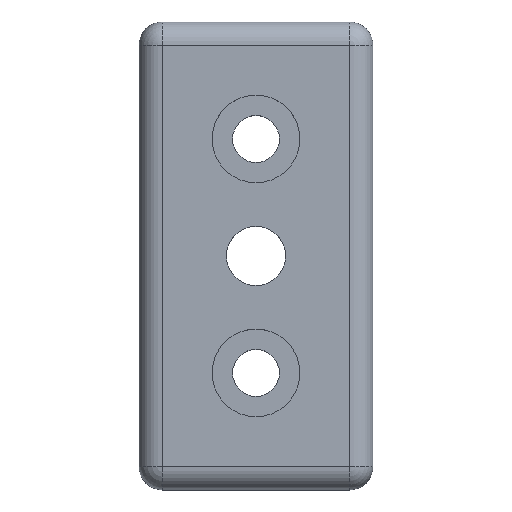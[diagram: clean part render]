
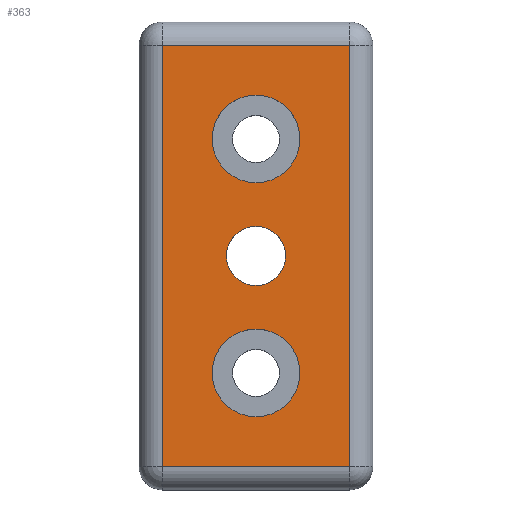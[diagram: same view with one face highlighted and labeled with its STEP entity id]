
A CAD part, top view. The second image highlights one B-rep face of the part: STEP entity #363.
In plain terms, the highlighted planar face has unit normal (0, 0, 1).
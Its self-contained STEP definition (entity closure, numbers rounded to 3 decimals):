
#32=CIRCLE('',#410,5.053);
#33=CIRCLE('',#411,7.5);
#34=CIRCLE('',#412,7.5);
#95=ORIENTED_EDGE('',*,*,#179,.T.);
#96=ORIENTED_EDGE('',*,*,#180,.T.);
#97=ORIENTED_EDGE('',*,*,#181,.T.);
#98=ORIENTED_EDGE('',*,*,#182,.T.);
#99=ORIENTED_EDGE('',*,*,#183,.T.);
#100=ORIENTED_EDGE('',*,*,#184,.T.);
#101=ORIENTED_EDGE('',*,*,#185,.T.);
#179=EDGE_CURVE('',#217,#217,#32,.T.);
#180=EDGE_CURVE('',#218,#218,#33,.T.);
#181=EDGE_CURVE('',#219,#219,#34,.T.);
#182=EDGE_CURVE('',#220,#221,#247,.T.);
#183=EDGE_CURVE('',#221,#222,#248,.T.);
#184=EDGE_CURVE('',#222,#223,#249,.T.);
#185=EDGE_CURVE('',#223,#220,#250,.T.);
#217=VERTEX_POINT('',#619);
#218=VERTEX_POINT('',#621);
#219=VERTEX_POINT('',#623);
#220=VERTEX_POINT('',#625);
#221=VERTEX_POINT('',#626);
#222=VERTEX_POINT('',#628);
#223=VERTEX_POINT('',#630);
#247=LINE('',#624,#267);
#248=LINE('',#627,#268);
#249=LINE('',#629,#269);
#250=LINE('',#631,#270);
#267=VECTOR('',#502,1000.);
#268=VECTOR('',#503,1000.);
#269=VECTOR('',#504,1000.);
#270=VECTOR('',#505,1000.);
#279=EDGE_LOOP('',(#95));
#280=EDGE_LOOP('',(#96));
#281=EDGE_LOOP('',(#97));
#282=EDGE_LOOP('',(#98,#99,#100,#101));
#317=FACE_BOUND('',#279,.T.);
#318=FACE_BOUND('',#280,.T.);
#319=FACE_BOUND('',#281,.T.);
#320=FACE_BOUND('',#282,.T.);
#351=PLANE('',#409);
#363=ADVANCED_FACE('',(#317,#318,#319,#320),#351,.T.);
#409=AXIS2_PLACEMENT_3D('',#617,#494,#495);
#410=AXIS2_PLACEMENT_3D('',#618,#496,#497);
#411=AXIS2_PLACEMENT_3D('',#620,#498,#499);
#412=AXIS2_PLACEMENT_3D('',#622,#500,#501);
#494=DIRECTION('',(0.,0.,1.));
#495=DIRECTION('',(1.,0.,0.));
#496=DIRECTION('',(0.,0.,-1.));
#497=DIRECTION('',(-1.,0.,0.));
#498=DIRECTION('',(0.,0.,-1.));
#499=DIRECTION('',(-1.,0.,0.));
#500=DIRECTION('',(0.,0.,-1.));
#501=DIRECTION('',(-1.,0.,0.));
#502=DIRECTION('',(0.,1.,0.));
#503=DIRECTION('',(-1.,0.,0.));
#504=DIRECTION('',(0.,-1.,0.));
#505=DIRECTION('',(1.,0.,0.));
#617=CARTESIAN_POINT('',(-16.,-36.,16.));
#618=CARTESIAN_POINT('',(0.,0.,16.));
#619=CARTESIAN_POINT('',(-5.053,0.,16.));
#620=CARTESIAN_POINT('',(0.,-20.,16.));
#621=CARTESIAN_POINT('',(-7.5,-20.,16.));
#622=CARTESIAN_POINT('',(0.,20.,16.));
#623=CARTESIAN_POINT('',(-7.5,20.,16.));
#624=CARTESIAN_POINT('',(16.,36.,16.));
#625=CARTESIAN_POINT('',(16.,-36.,16.));
#626=CARTESIAN_POINT('',(16.,36.,16.));
#627=CARTESIAN_POINT('',(-16.,36.,16.));
#628=CARTESIAN_POINT('',(-16.,36.,16.));
#629=CARTESIAN_POINT('',(-16.,-36.,16.));
#630=CARTESIAN_POINT('',(-16.,-36.,16.));
#631=CARTESIAN_POINT('',(16.,-36.,16.));
